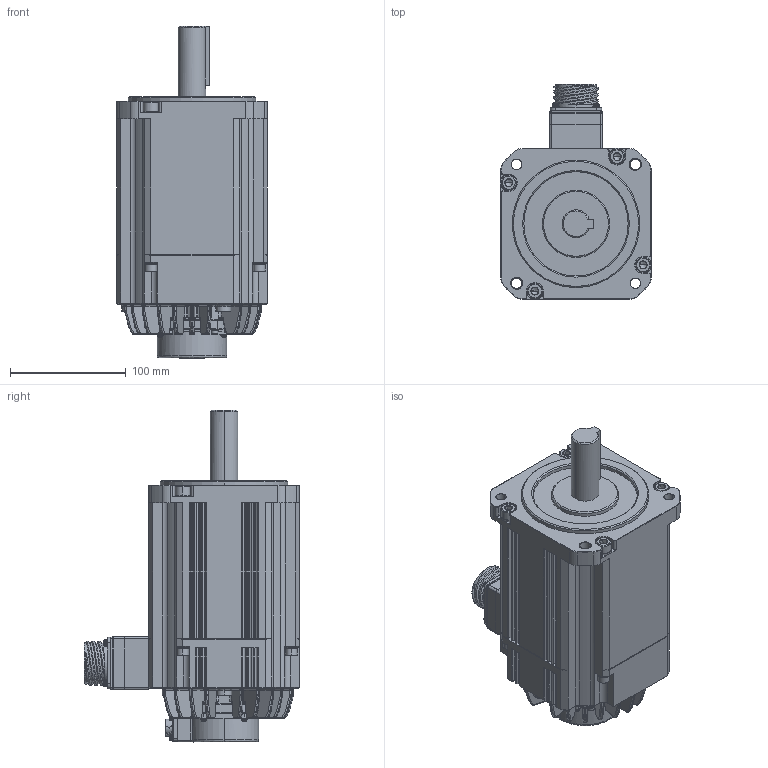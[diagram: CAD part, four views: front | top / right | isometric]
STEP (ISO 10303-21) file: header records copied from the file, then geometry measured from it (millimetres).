
FILE_DESCRIPTION (( 'STEP AP203' ), '1' );
FILE_NAME ('TSM3510N7371E733装配片 （和7372一致）.STEP', '2018-06-25T02:29:04', ( '' ), ( '' ), 'SwSTEP 2.0', 'SolidWorks 2017', '' );
FILE_SCHEMA (( 'CONFIG_CONTROL_DESIGN' ));
Length unit declared in the file: millimetre
Products named in the file (3): TSM3510N7371E732（TSM3510N7372E733一致）装配片; 螺紋孔; TSM3510N7371E733装配片 （和7372一致）
Assembly tree (2 placements, depth 2):
  TSM3510N7371E733装配片 （和7372一致）
    TSM3510N7371E732（TSM3510N7372E733一致）装配片
    螺紋孔
Bounding box: 130.5 x 185.7 x 286.5 mm (x, y, z)
Surface area: 192724.9 mm2 (no closed solid volume)
Topology: 0 solids, 13 shells, 3114 faces, 7817 edges, 4721 vertices
Faces by surface type: bspline 1091, plane 1033, cylinder 768, cone 222
Entity records: 152783 total; most frequent: CARTESIAN_POINT 86617, ORIENTED_EDGE 15374, DIRECTION 11249, EDGE_CURVE 7712, VERTEX_POINT 4721, AXIS2_PLACEMENT_3D 3824, VECTOR 3601, LINE 3601
